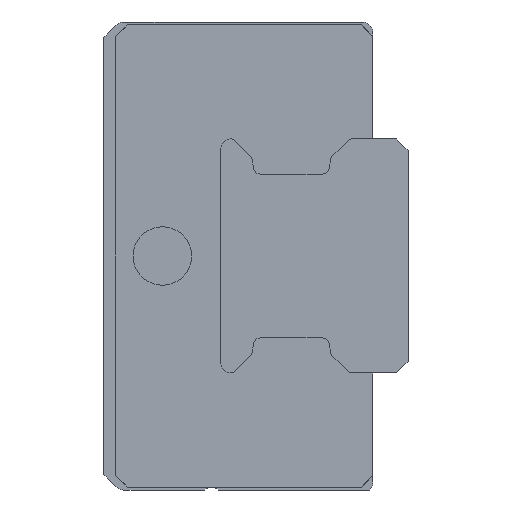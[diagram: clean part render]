
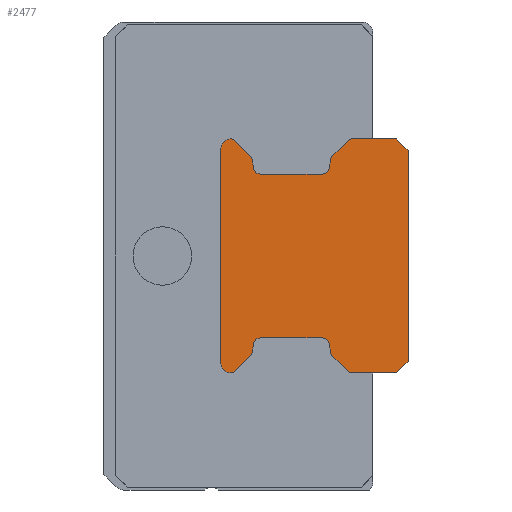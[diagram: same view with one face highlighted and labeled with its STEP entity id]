
A CAD part, left-side view. The second image highlights one B-rep face of the part: STEP entity #2477.
In plain terms, the highlighted planar face has unit normal (-1, 0, 0).
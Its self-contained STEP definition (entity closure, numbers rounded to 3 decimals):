
#43=CIRCLE('',#2611,0.15);
#45=CIRCLE('',#2615,0.15);
#47=CIRCLE('',#2619,0.3);
#49=CIRCLE('',#2623,0.3);
#51=CIRCLE('',#2627,0.15);
#53=CIRCLE('',#2631,0.15);
#60=CIRCLE('',#2644,0.15);
#62=CIRCLE('',#2648,0.15);
#64=CIRCLE('',#2652,0.3);
#66=CIRCLE('',#2656,0.3);
#68=CIRCLE('',#2660,0.15);
#70=CIRCLE('',#2664,0.15);
#72=CIRCLE('',#2668,0.4);
#79=CIRCLE('',#2677,0.4);
#356=ORIENTED_EDGE('',*,*,#894,.F.);
#357=ORIENTED_EDGE('',*,*,#998,.F.);
#358=ORIENTED_EDGE('',*,*,#995,.F.);
#359=ORIENTED_EDGE('',*,*,#987,.F.);
#360=ORIENTED_EDGE('',*,*,#984,.F.);
#361=ORIENTED_EDGE('',*,*,#981,.F.);
#362=ORIENTED_EDGE('',*,*,#978,.F.);
#363=ORIENTED_EDGE('',*,*,#975,.F.);
#364=ORIENTED_EDGE('',*,*,#972,.F.);
#365=ORIENTED_EDGE('',*,*,#969,.T.);
#366=ORIENTED_EDGE('',*,*,#966,.F.);
#367=ORIENTED_EDGE('',*,*,#963,.T.);
#368=ORIENTED_EDGE('',*,*,#960,.F.);
#369=ORIENTED_EDGE('',*,*,#957,.F.);
#370=ORIENTED_EDGE('',*,*,#954,.F.);
#371=ORIENTED_EDGE('',*,*,#951,.F.);
#372=ORIENTED_EDGE('',*,*,#948,.F.);
#373=ORIENTED_EDGE('',*,*,#945,.F.);
#374=ORIENTED_EDGE('',*,*,#942,.F.);
#375=ORIENTED_EDGE('',*,*,#934,.F.);
#376=ORIENTED_EDGE('',*,*,#931,.F.);
#377=ORIENTED_EDGE('',*,*,#928,.F.);
#378=ORIENTED_EDGE('',*,*,#925,.F.);
#379=ORIENTED_EDGE('',*,*,#922,.F.);
#380=ORIENTED_EDGE('',*,*,#919,.F.);
#381=ORIENTED_EDGE('',*,*,#916,.T.);
#382=ORIENTED_EDGE('',*,*,#913,.F.);
#383=ORIENTED_EDGE('',*,*,#910,.T.);
#384=ORIENTED_EDGE('',*,*,#907,.F.);
#385=ORIENTED_EDGE('',*,*,#904,.F.);
#386=ORIENTED_EDGE('',*,*,#901,.F.);
#387=ORIENTED_EDGE('',*,*,#898,.F.);
#894=EDGE_CURVE('',#1248,#1249,#1496,.T.);
#898=EDGE_CURVE('',#1249,#1252,#43,.T.);
#901=EDGE_CURVE('',#1252,#1254,#1501,.T.);
#904=EDGE_CURVE('',#1254,#1256,#45,.T.);
#907=EDGE_CURVE('',#1256,#1258,#1505,.T.);
#910=EDGE_CURVE('',#1260,#1258,#47,.T.);
#913=EDGE_CURVE('',#1260,#1262,#1509,.T.);
#916=EDGE_CURVE('',#1264,#1262,#49,.T.);
#919=EDGE_CURVE('',#1264,#1266,#1513,.T.);
#922=EDGE_CURVE('',#1266,#1268,#51,.T.);
#925=EDGE_CURVE('',#1268,#1270,#1517,.T.);
#928=EDGE_CURVE('',#1270,#1272,#53,.T.);
#931=EDGE_CURVE('',#1272,#1274,#1521,.T.);
#934=EDGE_CURVE('',#1274,#1276,#1524,.T.);
#942=EDGE_CURVE('',#1276,#1283,#1527,.T.);
#945=EDGE_CURVE('',#1283,#1285,#1530,.T.);
#948=EDGE_CURVE('',#1285,#1287,#1533,.T.);
#951=EDGE_CURVE('',#1287,#1289,#60,.T.);
#954=EDGE_CURVE('',#1289,#1291,#1537,.T.);
#957=EDGE_CURVE('',#1291,#1293,#62,.T.);
#960=EDGE_CURVE('',#1293,#1295,#1541,.T.);
#963=EDGE_CURVE('',#1297,#1295,#64,.T.);
#966=EDGE_CURVE('',#1297,#1299,#1545,.T.);
#969=EDGE_CURVE('',#1301,#1299,#66,.T.);
#972=EDGE_CURVE('',#1301,#1303,#1549,.T.);
#975=EDGE_CURVE('',#1303,#1305,#68,.T.);
#978=EDGE_CURVE('',#1305,#1307,#1553,.T.);
#981=EDGE_CURVE('',#1307,#1309,#70,.T.);
#984=EDGE_CURVE('',#1309,#1311,#1557,.T.);
#987=EDGE_CURVE('',#1311,#1313,#72,.T.);
#995=EDGE_CURVE('',#1313,#1320,#1561,.T.);
#998=EDGE_CURVE('',#1320,#1248,#79,.T.);
#1248=VERTEX_POINT('',#3580);
#1249=VERTEX_POINT('',#3581);
#1252=VERTEX_POINT('',#3589);
#1254=VERTEX_POINT('',#3595);
#1256=VERTEX_POINT('',#3601);
#1258=VERTEX_POINT('',#3607);
#1260=VERTEX_POINT('',#3613);
#1262=VERTEX_POINT('',#3619);
#1264=VERTEX_POINT('',#3625);
#1266=VERTEX_POINT('',#3631);
#1268=VERTEX_POINT('',#3637);
#1270=VERTEX_POINT('',#3643);
#1272=VERTEX_POINT('',#3649);
#1274=VERTEX_POINT('',#3655);
#1276=VERTEX_POINT('',#3661);
#1283=VERTEX_POINT('',#3677);
#1285=VERTEX_POINT('',#3683);
#1287=VERTEX_POINT('',#3689);
#1289=VERTEX_POINT('',#3695);
#1291=VERTEX_POINT('',#3701);
#1293=VERTEX_POINT('',#3707);
#1295=VERTEX_POINT('',#3713);
#1297=VERTEX_POINT('',#3719);
#1299=VERTEX_POINT('',#3725);
#1301=VERTEX_POINT('',#3731);
#1303=VERTEX_POINT('',#3737);
#1305=VERTEX_POINT('',#3743);
#1307=VERTEX_POINT('',#3749);
#1309=VERTEX_POINT('',#3755);
#1311=VERTEX_POINT('',#3761);
#1313=VERTEX_POINT('',#3767);
#1320=VERTEX_POINT('',#3783);
#1496=LINE('',#3579,#1754);
#1501=LINE('',#3594,#1759);
#1505=LINE('',#3606,#1763);
#1509=LINE('',#3618,#1767);
#1513=LINE('',#3630,#1771);
#1517=LINE('',#3642,#1775);
#1521=LINE('',#3654,#1779);
#1524=LINE('',#3660,#1782);
#1527=LINE('',#3676,#1785);
#1530=LINE('',#3682,#1788);
#1533=LINE('',#3688,#1791);
#1537=LINE('',#3700,#1795);
#1541=LINE('',#3712,#1799);
#1545=LINE('',#3724,#1803);
#1549=LINE('',#3736,#1807);
#1553=LINE('',#3748,#1811);
#1557=LINE('',#3760,#1815);
#1561=LINE('',#3782,#1819);
#1754=VECTOR('',#2849,1000.);
#1759=VECTOR('',#2862,1000.);
#1763=VECTOR('',#2874,1000.);
#1767=VECTOR('',#2886,1000.);
#1771=VECTOR('',#2898,1000.);
#1775=VECTOR('',#2910,1000.);
#1779=VECTOR('',#2922,1000.);
#1782=VECTOR('',#2927,1000.);
#1785=VECTOR('',#2942,1000.);
#1788=VECTOR('',#2947,1000.);
#1791=VECTOR('',#2952,1000.);
#1795=VECTOR('',#2964,1000.);
#1799=VECTOR('',#2976,1000.);
#1803=VECTOR('',#2988,1000.);
#1807=VECTOR('',#3000,1000.);
#1811=VECTOR('',#3012,1000.);
#1815=VECTOR('',#3024,1000.);
#1819=VECTOR('',#3046,1000.);
#2055=EDGE_LOOP('',(#356,#357,#358,#359,#360,#361,#362,#363,#364,#365,#366,
#367,#368,#369,#370,#371,#372,#373,#374,#375,#376,#377,#378,#379,#380,#381,
#382,#383,#384,#385,#386,#387));
#2227=FACE_BOUND('',#2055,.T.);
#2377=PLANE('',#2680);
#2477=ADVANCED_FACE('',(#2227),#2377,.F.);
#2611=AXIS2_PLACEMENT_3D('',#3588,#2855,#2856);
#2615=AXIS2_PLACEMENT_3D('',#3600,#2867,#2868);
#2619=AXIS2_PLACEMENT_3D('',#3612,#2879,#2880);
#2623=AXIS2_PLACEMENT_3D('',#3624,#2891,#2892);
#2627=AXIS2_PLACEMENT_3D('',#3636,#2903,#2904);
#2631=AXIS2_PLACEMENT_3D('',#3648,#2915,#2916);
#2644=AXIS2_PLACEMENT_3D('',#3694,#2957,#2958);
#2648=AXIS2_PLACEMENT_3D('',#3706,#2969,#2970);
#2652=AXIS2_PLACEMENT_3D('',#3718,#2981,#2982);
#2656=AXIS2_PLACEMENT_3D('',#3730,#2993,#2994);
#2660=AXIS2_PLACEMENT_3D('',#3742,#3005,#3006);
#2664=AXIS2_PLACEMENT_3D('',#3754,#3017,#3018);
#2668=AXIS2_PLACEMENT_3D('',#3766,#3029,#3030);
#2677=AXIS2_PLACEMENT_3D('',#3788,#3051,#3052);
#2680=AXIS2_PLACEMENT_3D('',#3791,#3057,#3058);
#2849=DIRECTION('',(0.,-1.,0.));
#2855=DIRECTION('',(1.,0.,0.));
#2856=DIRECTION('',(0.,0.,-1.));
#2862=DIRECTION('',(0.,-0.707,-0.707));
#2867=DIRECTION('',(1.,0.,0.));
#2868=DIRECTION('',(0.,0.,-1.));
#2874=DIRECTION('',(0.,-0.174,-0.985));
#2879=DIRECTION('',(1.,0.,0.));
#2880=DIRECTION('',(0.,0.,-1.));
#2886=DIRECTION('',(0.,-1.,0.));
#2891=DIRECTION('',(1.,0.,0.));
#2892=DIRECTION('',(0.,0.,-1.));
#2898=DIRECTION('',(0.,-0.174,0.985));
#2903=DIRECTION('',(1.,0.,0.));
#2904=DIRECTION('',(0.,0.,-1.));
#2910=DIRECTION('',(0.,-0.707,0.707));
#2915=DIRECTION('',(1.,0.,0.));
#2916=DIRECTION('',(0.,0.,-1.));
#2922=DIRECTION('',(0.,-1.,0.));
#2927=DIRECTION('',(0.,-0.707,-0.707));
#2942=DIRECTION('',(0.,0.,-1.));
#2947=DIRECTION('',(0.,0.707,-0.707));
#2952=DIRECTION('',(0.,1.,0.));
#2957=DIRECTION('',(1.,0.,0.));
#2958=DIRECTION('',(0.,0.,-1.));
#2964=DIRECTION('',(0.,0.707,0.707));
#2969=DIRECTION('',(1.,0.,0.));
#2970=DIRECTION('',(0.,0.,-1.));
#2976=DIRECTION('',(0.,0.174,0.985));
#2981=DIRECTION('',(1.,0.,0.));
#2982=DIRECTION('',(0.,0.,-1.));
#2988=DIRECTION('',(0.,1.,0.));
#2993=DIRECTION('',(1.,0.,0.));
#2994=DIRECTION('',(0.,0.,-1.));
#3000=DIRECTION('',(0.,0.174,-0.985));
#3005=DIRECTION('',(1.,0.,0.));
#3006=DIRECTION('',(0.,0.,-1.));
#3012=DIRECTION('',(0.,0.707,-0.707));
#3017=DIRECTION('',(1.,0.,0.));
#3018=DIRECTION('',(0.,0.,-1.));
#3024=DIRECTION('',(0.,1.,0.));
#3029=DIRECTION('',(1.,0.,0.));
#3030=DIRECTION('',(0.,0.,-1.));
#3046=DIRECTION('',(0.,0.,1.));
#3051=DIRECTION('',(1.,0.,0.));
#3052=DIRECTION('',(0.,0.,-1.));
#3057=DIRECTION('',(1.,0.,0.));
#3058=DIRECTION('',(0.,0.,-1.));
#3579=CARTESIAN_POINT('',(-10.,7.6,5.));
#3580=CARTESIAN_POINT('',(-10.,7.6,5.));
#3581=CARTESIAN_POINT('',(-10.,7.542,5.));
#3588=CARTESIAN_POINT('',(-10.,7.542,4.85));
#3589=CARTESIAN_POINT('',(-10.,7.436,4.956));
#3594=CARTESIAN_POINT('',(-10.,7.436,4.956));
#3595=CARTESIAN_POINT('',(-10.,6.718,4.238));
#3600=CARTESIAN_POINT('',(-10.,6.824,4.132));
#3601=CARTESIAN_POINT('',(-10.,6.676,4.158));
#3606=CARTESIAN_POINT('',(-10.,6.676,4.158));
#3607=CARTESIAN_POINT('',(-10.,6.604,3.748));
#3612=CARTESIAN_POINT('',(-10.,6.308,3.8));
#3613=CARTESIAN_POINT('',(-10.,6.308,3.5));
#3618=CARTESIAN_POINT('',(-10.,6.308,3.5));
#3619=CARTESIAN_POINT('',(-10.,3.672,3.5));
#3624=CARTESIAN_POINT('',(-10.,3.672,3.8));
#3625=CARTESIAN_POINT('',(-10.,3.376,3.748));
#3630=CARTESIAN_POINT('',(-10.,3.376,3.748));
#3631=CARTESIAN_POINT('',(-10.,3.304,4.158));
#3636=CARTESIAN_POINT('',(-10.,3.156,4.132));
#3637=CARTESIAN_POINT('',(-10.,3.262,4.238));
#3642=CARTESIAN_POINT('',(-10.,3.262,4.238));
#3643=CARTESIAN_POINT('',(-10.,2.544,4.956));
#3648=CARTESIAN_POINT('',(-10.,2.438,4.85));
#3649=CARTESIAN_POINT('',(-10.,2.438,5.));
#3654=CARTESIAN_POINT('',(-10.,2.438,5.));
#3655=CARTESIAN_POINT('',(-10.,0.5,5.));
#3660=CARTESIAN_POINT('',(-10.,0.5,5.));
#3661=CARTESIAN_POINT('',(-10.,0.,4.5));
#3676=CARTESIAN_POINT('',(-10.,0.,4.5));
#3677=CARTESIAN_POINT('',(-10.,0.,-4.5));
#3682=CARTESIAN_POINT('',(-10.,0.,-4.5));
#3683=CARTESIAN_POINT('',(-10.,0.5,-5.));
#3688=CARTESIAN_POINT('',(-10.,0.5,-5.));
#3689=CARTESIAN_POINT('',(-10.,2.438,-5.));
#3694=CARTESIAN_POINT('',(-10.,2.438,-4.85));
#3695=CARTESIAN_POINT('',(-10.,2.544,-4.956));
#3700=CARTESIAN_POINT('',(-10.,2.544,-4.956));
#3701=CARTESIAN_POINT('',(-10.,3.262,-4.238));
#3706=CARTESIAN_POINT('',(-10.,3.156,-4.132));
#3707=CARTESIAN_POINT('',(-10.,3.304,-4.158));
#3712=CARTESIAN_POINT('',(-10.,3.304,-4.158));
#3713=CARTESIAN_POINT('',(-10.,3.376,-3.748));
#3718=CARTESIAN_POINT('',(-10.,3.672,-3.8));
#3719=CARTESIAN_POINT('',(-10.,3.672,-3.5));
#3724=CARTESIAN_POINT('',(-10.,3.672,-3.5));
#3725=CARTESIAN_POINT('',(-10.,6.308,-3.5));
#3730=CARTESIAN_POINT('',(-10.,6.308,-3.8));
#3731=CARTESIAN_POINT('',(-10.,6.604,-3.748));
#3736=CARTESIAN_POINT('',(-10.,6.604,-3.748));
#3737=CARTESIAN_POINT('',(-10.,6.676,-4.158));
#3742=CARTESIAN_POINT('',(-10.,6.824,-4.132));
#3743=CARTESIAN_POINT('',(-10.,6.718,-4.238));
#3748=CARTESIAN_POINT('',(-10.,6.718,-4.238));
#3749=CARTESIAN_POINT('',(-10.,7.436,-4.956));
#3754=CARTESIAN_POINT('',(-10.,7.542,-4.85));
#3755=CARTESIAN_POINT('',(-10.,7.542,-5.));
#3760=CARTESIAN_POINT('',(-10.,7.542,-5.));
#3761=CARTESIAN_POINT('',(-10.,7.6,-5.));
#3766=CARTESIAN_POINT('',(-10.,7.6,-4.6));
#3767=CARTESIAN_POINT('',(-10.,8.,-4.6));
#3782=CARTESIAN_POINT('',(-10.,8.,-4.6));
#3783=CARTESIAN_POINT('',(-10.,8.,4.6));
#3788=CARTESIAN_POINT('',(-10.,7.6,4.6));
#3791=CARTESIAN_POINT('',(-10.,7.542,4.85));
